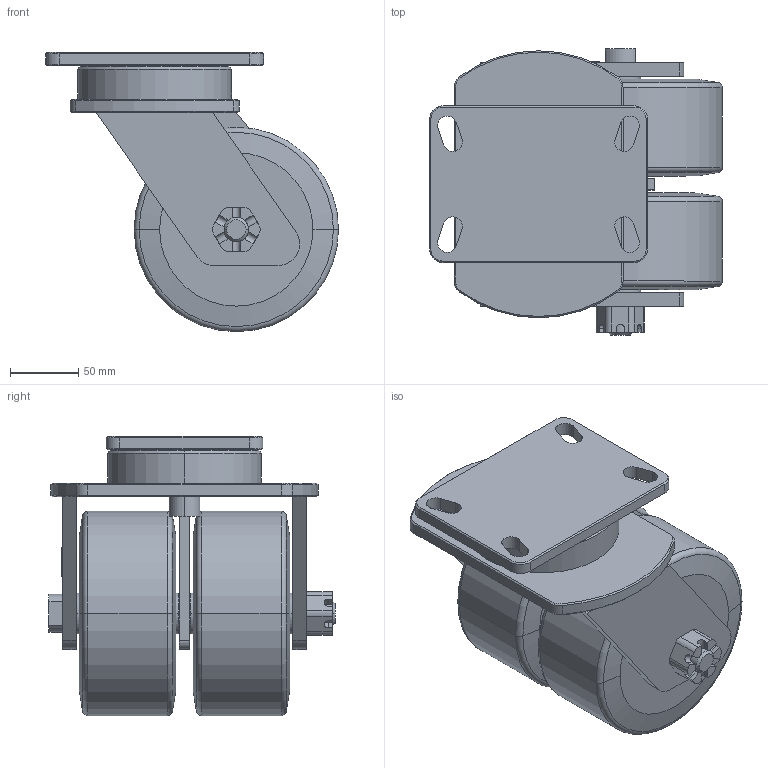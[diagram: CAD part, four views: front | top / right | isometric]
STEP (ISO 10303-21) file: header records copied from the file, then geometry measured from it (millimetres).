
FILE_DESCRIPTION(/* description */ (''),/* implementation_level */ '2;1');
FILE_NAME(/* name */ '40B01_6_F.stp',/* time_stamp */ '2022-08-29T10:23:53+08:00',/* author */ (''),/* organization */ (''),/* preprocessor_version */ 'ST-DEVELOPER v14',/* originating_system */ 'SIEMENS PLM Software NX 8.0',/* authorisation */ '');
FILE_SCHEMA (('AUTOMOTIVE_DESIGN { 1 0 10303 214 3 1 1 1 }'));
Length unit declared in the file: millimetre
Products named in the file (1): 40B01_6_F
Bounding box: 215 x 210 x 205 mm (x, y, z)
Volume: 3348889.1 mm3; surface area: 284209 mm2
Topology: 1 solids, 1 shells, 401 faces, 1075 edges, 709 vertices
Faces by surface type: plane 256, cylinder 101, cone 34, torus 10
Entity records: 13097 total; most frequent: CARTESIAN_POINT 3230, ORIENTED_EDGE 2150, DIRECTION 1916, EDGE_CURVE 1075, VERTEX_POINT 709, AXIS2_PLACEMENT_3D 700, LINE 516, VECTOR 516
